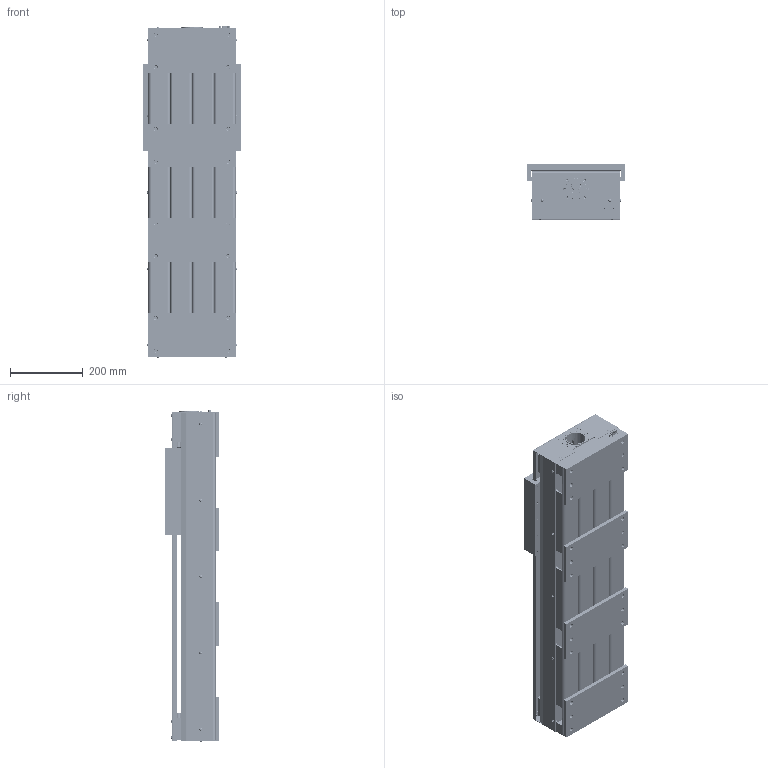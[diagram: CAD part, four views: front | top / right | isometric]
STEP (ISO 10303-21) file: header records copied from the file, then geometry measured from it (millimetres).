
FILE_DESCRIPTION (( 'STEP AP203' ), '1' );
FILE_NAME ('旂朊1.0490 metall cover.STEP', '2013-02-11T13:13:35', ( 'Constructor' ), ( '' ), 'SwSTEP 2.0', 'SolidWorks 2012', '' );
FILE_SCHEMA (( 'CONFIG_CONTROL_DESIGN' ));
Products named in the file (1): 旂朊1.0490 metall cover
Bounding box: 270 x 150 x 913.7 mm (x, y, z)
Volume: 8777291.3 mm3; surface area: 2721834.2 mm2
Topology: 1 solids, 61 shells, 4670 faces, 12349 edges, 7851 vertices
Faces by surface type: plane 2306, cylinder 1209, cone 449, bspline 374, torus 212, sphere 120
Entity records: 162702 total; most frequent: CARTESIAN_POINT 48013, ORIENTED_EDGE 24210, DIRECTION 23617, EDGE_CURVE 12105, AXIS2_PLACEMENT_3D 8557, VERTEX_POINT 7779, LINE 6503, VECTOR 6503
